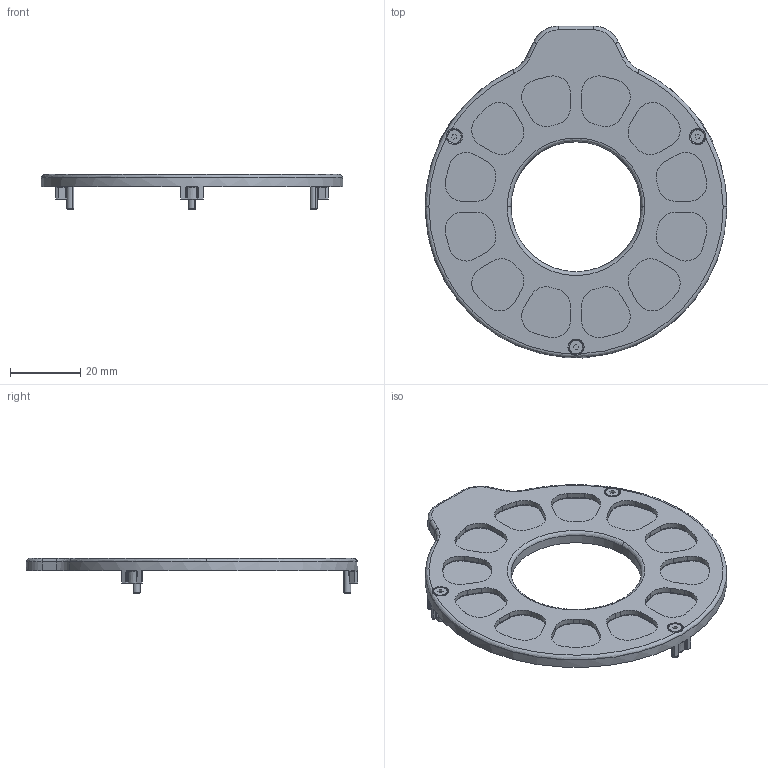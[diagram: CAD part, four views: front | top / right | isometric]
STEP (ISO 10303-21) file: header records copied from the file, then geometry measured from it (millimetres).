
FILE_DESCRIPTION (( 'STEP AP214' ), '1' );
FILE_NAME ('AC-MTRING-xx .STEP', '2024-09-11T10:40:14', ( '' ), ( '' ), 'SwSTEP 2.0', 'SolidWorks 2021', '' );
FILE_SCHEMA (( 'AUTOMOTIVE_DESIGN' ));
Length unit declared in the file: millimetre
Products named in the file (3): AC-MTRING-xx; M2-countersunk-10mm; AC-MTRING-xx 
Assembly tree (4 placements, depth 2):
  AC-MTRING-xx 
    AC-MTRING-xx
    M2-countersunk-10mm  x3
Bounding box: 85.93 x 94.59 x 10 mm (x, y, z)
Volume: 8037.1 mm3; surface area: 14006 mm2
Topology: 4 solids, 4 shells, 804 faces, 1960 edges, 1173 vertices
Faces by surface type: bspline 269, cone 196, cylinder 172, plane 155, torus 12
Entity records: 29570 total; most frequent: CARTESIAN_POINT 12746, ORIENTED_EDGE 3752, DIRECTION 3361, EDGE_CURVE 1876, AXIS2_PLACEMENT_3D 1375, VERTEX_POINT 1129, CIRCLE 867, EDGE_LOOP 797
